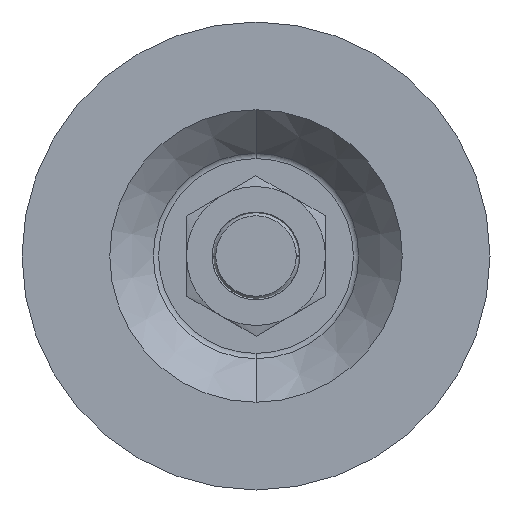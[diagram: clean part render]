
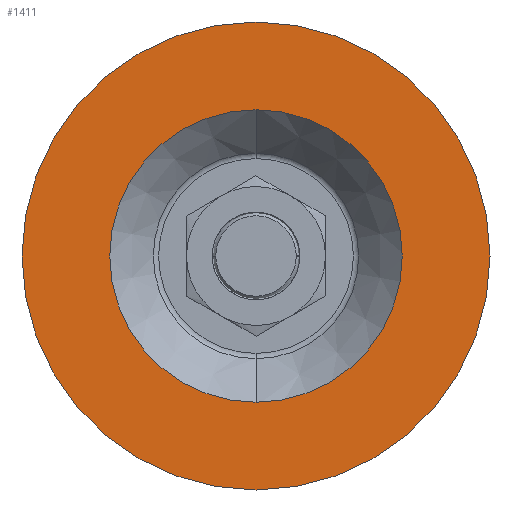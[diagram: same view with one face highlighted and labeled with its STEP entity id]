
A CAD part, front view. The second image highlights one B-rep face of the part: STEP entity #1411.
In plain terms, the highlighted planar face has unit normal (0, -1, 0).
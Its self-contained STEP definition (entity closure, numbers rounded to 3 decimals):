
#153 = CARTESIAN_POINT ( 'NONE',  ( 0., -2.8, 0. ) ) ;
#700 = ORIENTED_EDGE ( 'NONE', *, *, #6079, .T. ) ;
#850 = AXIS2_PLACEMENT_3D ( 'NONE', #7527, #1681, #1620 ) ;
#899 = DIRECTION ( 'NONE',  ( 0., 0., -1. ) ) ;
#926 = DIRECTION ( 'NONE',  ( 0., -1., 0. ) ) ;
#1230 = CIRCLE ( 'NONE', #850, 32. ) ;
#1411 = ADVANCED_FACE ( 'NONE', ( #3905, #1842 ), #4020, .T. ) ;
#1521 = AXIS2_PLACEMENT_3D ( 'NONE', #153, #6847, #2846 ) ;
#1620 = DIRECTION ( 'NONE',  ( 0., 0., -1. ) ) ;
#1637 = CIRCLE ( 'NONE', #2406, 20. ) ;
#1681 = DIRECTION ( 'NONE',  ( 0., -1., 0. ) ) ;
#1701 = EDGE_CURVE ( 'NONE', #7531, #7888, #1637, .T. ) ;
#1842 = FACE_BOUND ( 'NONE', #2757, .T. ) ;
#2148 = DIRECTION ( 'NONE',  ( 0., -1., 0. ) ) ;
#2406 = AXIS2_PLACEMENT_3D ( 'NONE', #4224, #926, #899 ) ;
#2558 = AXIS2_PLACEMENT_3D ( 'NONE', #4793, #2148, #4705 ) ;
#2655 = CARTESIAN_POINT ( 'NONE',  ( 0., -2.8, -32. ) ) ;
#2734 = AXIS2_PLACEMENT_3D ( 'NONE', #3569, #8228, #6284 ) ;
#2757 = EDGE_LOOP ( 'NONE', ( #3368, #8184 ) ) ;
#2846 = DIRECTION ( 'NONE',  ( 0., 0., -1. ) ) ;
#2856 = CARTESIAN_POINT ( 'NONE',  ( 0., -2.8, 32. ) ) ;
#2963 = CIRCLE ( 'NONE', #1521, 20. ) ;
#3368 = ORIENTED_EDGE ( 'NONE', *, *, #7382, .F. ) ;
#3569 = CARTESIAN_POINT ( 'NONE',  ( 0., -2.8, 0. ) ) ;
#3905 = FACE_OUTER_BOUND ( 'NONE', #6514, .T. ) ;
#4020 = PLANE ( 'NONE',  #2558 ) ;
#4066 = VERTEX_POINT ( 'NONE', #2856 ) ;
#4179 = EDGE_CURVE ( 'NONE', #4818, #4066, #1230, .T. ) ;
#4224 = CARTESIAN_POINT ( 'NONE',  ( 0., -2.8, 0. ) ) ;
#4271 = CARTESIAN_POINT ( 'NONE',  ( 0., -2.8, -20. ) ) ;
#4380 = ORIENTED_EDGE ( 'NONE', *, *, #4179, .T. ) ;
#4705 = DIRECTION ( 'NONE',  ( 0., 0., -1. ) ) ;
#4793 = CARTESIAN_POINT ( 'NONE',  ( 32., -2.8, 0. ) ) ;
#4818 = VERTEX_POINT ( 'NONE', #2655 ) ;
#6079 = EDGE_CURVE ( 'NONE', #4066, #4818, #7133, .T. ) ;
#6284 = DIRECTION ( 'NONE',  ( 0., 0., -1. ) ) ;
#6413 = CARTESIAN_POINT ( 'NONE',  ( 0., -2.8, 20. ) ) ;
#6514 = EDGE_LOOP ( 'NONE', ( #4380, #700 ) ) ;
#6847 = DIRECTION ( 'NONE',  ( 0., -1., 0. ) ) ;
#7133 = CIRCLE ( 'NONE', #2734, 32. ) ;
#7382 = EDGE_CURVE ( 'NONE', #7888, #7531, #2963, .T. ) ;
#7527 = CARTESIAN_POINT ( 'NONE',  ( 0., -2.8, 0. ) ) ;
#7531 = VERTEX_POINT ( 'NONE', #6413 ) ;
#7888 = VERTEX_POINT ( 'NONE', #4271 ) ;
#8184 = ORIENTED_EDGE ( 'NONE', *, *, #1701, .F. ) ;
#8228 = DIRECTION ( 'NONE',  ( 0., -1., 0. ) ) ;
